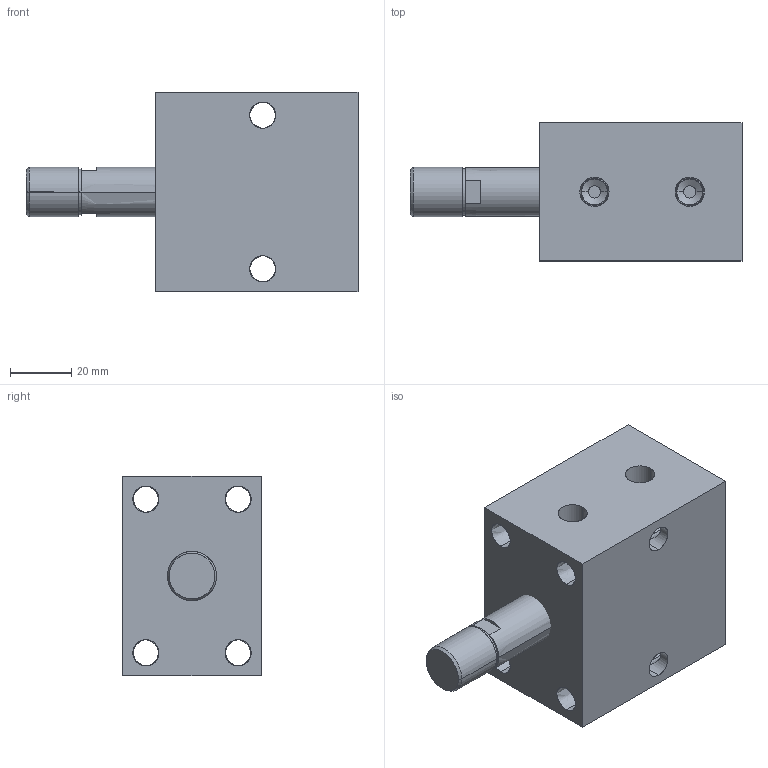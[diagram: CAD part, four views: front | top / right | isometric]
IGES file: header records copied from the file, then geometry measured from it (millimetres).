
Start section: SolidWorks IGES file using analytic representation for surfaces
Global section: file name: C:\Documents and Settings\rajib\Desktop\Rajib\BLOCK CYLINDER HYDRAULIC\0201-0206\0203.IGS; native system: SolidWorks 2007; preprocessor: SolidWorks 2007; author: rajib; date: 110121.094048; units: millimetre
Bounding box: 108 x 45 x 65 mm (x, y, z)
Surface area: 33256.3 mm2 (no closed solid volume)
Topology: 0 solids, 0 shells, 76 faces, 1704 edges, 1704 vertices
Faces by surface type: revolution 54, bspline 22
